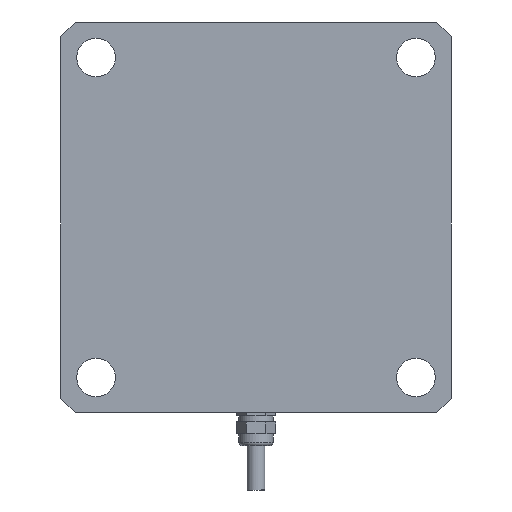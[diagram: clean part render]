
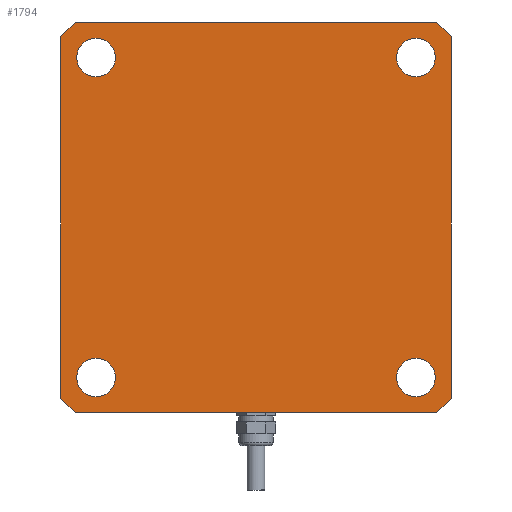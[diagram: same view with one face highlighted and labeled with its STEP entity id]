
A CAD part, front view. The second image highlights one B-rep face of the part: STEP entity #1794.
In plain terms, the highlighted planar face has unit normal (0, -1, 0).
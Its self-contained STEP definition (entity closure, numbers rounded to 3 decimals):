
#1 = FACE_BOUND ( 'NONE', #2020, .T. ) ;
#16 = PLANE ( 'NONE',  #1724 ) ;
#18 = DIRECTION ( 'NONE',  ( 0.707, 0., -0.707 ) ) ;
#34 = EDGE_CURVE ( 'NONE', #967, #1880, #2181, .T. ) ;
#38 = EDGE_CURVE ( 'NONE', #1899, #57, #860, .T. ) ;
#44 = CARTESIAN_POINT ( 'NONE',  ( 61., -56.85, 66. ) ) ;
#57 = VERTEX_POINT ( 'NONE', #451 ) ;
#68 = ORIENTED_EDGE ( 'NONE', *, *, #1747, .T. ) ;
#82 = ORIENTED_EDGE ( 'NONE', *, *, #615, .F. ) ;
#96 = ORIENTED_EDGE ( 'NONE', *, *, #1444, .T. ) ;
#99 = CARTESIAN_POINT ( 'NONE',  ( -66., -56.85, -66. ) ) ;
#120 = AXIS2_PLACEMENT_3D ( 'NONE', #2150, #962, #1763 ) ;
#123 = AXIS2_PLACEMENT_3D ( 'NONE', #2077, #1298, #1319 ) ;
#129 = CARTESIAN_POINT ( 'NONE',  ( 54., -56.85, -54. ) ) ;
#175 = CIRCLE ( 'NONE', #419, 6.5 ) ;
#186 = VERTEX_POINT ( 'NONE', #1867 ) ;
#194 = CARTESIAN_POINT ( 'NONE',  ( -54., -56.85, 60.5 ) ) ;
#205 = AXIS2_PLACEMENT_3D ( 'NONE', #1428, #879, #851 ) ;
#207 = DIRECTION ( 'NONE',  ( 0., 1., 0. ) ) ;
#227 = DIRECTION ( 'NONE',  ( 0., -1., 0. ) ) ;
#253 = CARTESIAN_POINT ( 'NONE',  ( 66., -56.85, 61. ) ) ;
#269 = CARTESIAN_POINT ( 'NONE',  ( 54., -56.85, -47.5 ) ) ;
#270 = VERTEX_POINT ( 'NONE', #1771 ) ;
#282 = AXIS2_PLACEMENT_3D ( 'NONE', #1489, #2079, #1107 ) ;
#319 = DIRECTION ( 'NONE',  ( 0., -1., 0. ) ) ;
#359 = DIRECTION ( 'NONE',  ( 0., 0., -1. ) ) ;
#369 = VECTOR ( 'NONE', #1809, 1000. ) ;
#419 = AXIS2_PLACEMENT_3D ( 'NONE', #129, #2286, #359 ) ;
#442 = CIRCLE ( 'NONE', #282, 6.5 ) ;
#449 = VERTEX_POINT ( 'NONE', #1236 ) ;
#451 = CARTESIAN_POINT ( 'NONE',  ( 54., -56.85, 47.5 ) ) ;
#452 = VECTOR ( 'NONE', #941, 1000. ) ;
#479 = VERTEX_POINT ( 'NONE', #253 ) ;
#515 = CARTESIAN_POINT ( 'NONE',  ( -54., -56.85, 54. ) ) ;
#543 = EDGE_CURVE ( 'NONE', #891, #449, #1646, .T. ) ;
#544 = AXIS2_PLACEMENT_3D ( 'NONE', #515, #1683, #1859 ) ;
#551 = EDGE_CURVE ( 'NONE', #1335, #270, #2040, .T. ) ;
#559 = LINE ( 'NONE', #2310, #2356 ) ;
#562 = ORIENTED_EDGE ( 'NONE', *, *, #1727, .F. ) ;
#604 = EDGE_CURVE ( 'NONE', #57, #1899, #1233, .T. ) ;
#609 = DIRECTION ( 'NONE',  ( -0.707, 0., 0.707 ) ) ;
#615 = EDGE_CURVE ( 'NONE', #1549, #1048, #654, .T. ) ;
#622 = FACE_BOUND ( 'NONE', #715, .T. ) ;
#624 = LINE ( 'NONE', #2366, #1799 ) ;
#634 = LINE ( 'NONE', #1033, #1356 ) ;
#642 = EDGE_CURVE ( 'NONE', #833, #1636, #175, .T. ) ;
#654 = CIRCLE ( 'NONE', #740, 6.5 ) ;
#714 = ORIENTED_EDGE ( 'NONE', *, *, #1215, .T. ) ;
#715 = EDGE_LOOP ( 'NONE', ( #1239, #1841 ) ) ;
#719 = CARTESIAN_POINT ( 'NONE',  ( -54., -56.85, 47.5 ) ) ;
#740 = AXIS2_PLACEMENT_3D ( 'NONE', #744, #319, #1147 ) ;
#744 = CARTESIAN_POINT ( 'NONE',  ( -54., -56.85, -54. ) ) ;
#750 = AXIS2_PLACEMENT_3D ( 'NONE', #2168, #227, #1246 ) ;
#830 = EDGE_CURVE ( 'NONE', #1636, #833, #1573, .T. ) ;
#833 = VERTEX_POINT ( 'NONE', #1780 ) ;
#836 = LINE ( 'NONE', #1622, #2306 ) ;
#851 = DIRECTION ( 'NONE',  ( 0., 0., -1. ) ) ;
#860 = CIRCLE ( 'NONE', #205, 6.5 ) ;
#879 = DIRECTION ( 'NONE',  ( 0., -1., 0. ) ) ;
#891 = VERTEX_POINT ( 'NONE', #2448 ) ;
#901 = CIRCLE ( 'NONE', #120, 6.5 ) ;
#930 = LINE ( 'NONE', #1177, #452 ) ;
#941 = DIRECTION ( 'NONE',  ( -0.707, 0., -0.707 ) ) ;
#944 = ORIENTED_EDGE ( 'NONE', *, *, #551, .T. ) ;
#955 = VERTEX_POINT ( 'NONE', #1156 ) ;
#962 = DIRECTION ( 'NONE',  ( 0., -1., 0. ) ) ;
#967 = VERTEX_POINT ( 'NONE', #194 ) ;
#999 = EDGE_CURVE ( 'NONE', #186, #891, #930, .T. ) ;
#1033 = CARTESIAN_POINT ( 'NONE',  ( -66., -56.85, -66. ) ) ;
#1048 = VERTEX_POINT ( 'NONE', #2314 ) ;
#1057 = CARTESIAN_POINT ( 'NONE',  ( 61., -56.85, -66. ) ) ;
#1107 = DIRECTION ( 'NONE',  ( 0., 0., -1. ) ) ;
#1128 = EDGE_CURVE ( 'NONE', #1506, #1335, #634, .T. ) ;
#1136 = CARTESIAN_POINT ( 'NONE',  ( -61., -56.85, -66. ) ) ;
#1137 = ORIENTED_EDGE ( 'NONE', *, *, #34, .F. ) ;
#1147 = DIRECTION ( 'NONE',  ( 0., 0., -1. ) ) ;
#1156 = CARTESIAN_POINT ( 'NONE',  ( 61., -56.85, 66. ) ) ;
#1177 = CARTESIAN_POINT ( 'NONE',  ( -66., -56.85, 61. ) ) ;
#1215 = EDGE_CURVE ( 'NONE', #270, #479, #836, .T. ) ;
#1233 = CIRCLE ( 'NONE', #123, 6.5 ) ;
#1236 = CARTESIAN_POINT ( 'NONE',  ( -66., -56.85, -61. ) ) ;
#1239 = ORIENTED_EDGE ( 'NONE', *, *, #830, .F. ) ;
#1246 = DIRECTION ( 'NONE',  ( 0., 0., -1. ) ) ;
#1298 = DIRECTION ( 'NONE',  ( 0., -1., 0. ) ) ;
#1319 = DIRECTION ( 'NONE',  ( 0., 0., -1. ) ) ;
#1335 = VERTEX_POINT ( 'NONE', #1057 ) ;
#1343 = EDGE_LOOP ( 'NONE', ( #96, #2117, #2296, #2182, #1922, #944, #714, #68 ) ) ;
#1356 = VECTOR ( 'NONE', #2164, 1000. ) ;
#1388 = FACE_BOUND ( 'NONE', #1578, .T. ) ;
#1428 = CARTESIAN_POINT ( 'NONE',  ( 54., -56.85, 54. ) ) ;
#1444 = EDGE_CURVE ( 'NONE', #955, #186, #559, .T. ) ;
#1489 = CARTESIAN_POINT ( 'NONE',  ( -54., -56.85, -54. ) ) ;
#1506 = VERTEX_POINT ( 'NONE', #1136 ) ;
#1549 = VERTEX_POINT ( 'NONE', #1618 ) ;
#1551 = VECTOR ( 'NONE', #609, 1000. ) ;
#1573 = CIRCLE ( 'NONE', #750, 6.5 ) ;
#1578 = EDGE_LOOP ( 'NONE', ( #82, #562 ) ) ;
#1618 = CARTESIAN_POINT ( 'NONE',  ( -54., -56.85, -47.5 ) ) ;
#1622 = CARTESIAN_POINT ( 'NONE',  ( 66., -56.85, -66. ) ) ;
#1636 = VERTEX_POINT ( 'NONE', #269 ) ;
#1646 = LINE ( 'NONE', #99, #1848 ) ;
#1683 = DIRECTION ( 'NONE',  ( 0., -1., 0. ) ) ;
#1724 = AXIS2_PLACEMENT_3D ( 'NONE', #1954, #207, #1979 ) ;
#1727 = EDGE_CURVE ( 'NONE', #1048, #1549, #442, .T. ) ;
#1747 = EDGE_CURVE ( 'NONE', #479, #955, #1788, .T. ) ;
#1763 = DIRECTION ( 'NONE',  ( 0., 0., -1. ) ) ;
#1771 = CARTESIAN_POINT ( 'NONE',  ( 66., -56.85, -61. ) ) ;
#1780 = CARTESIAN_POINT ( 'NONE',  ( 54., -56.85, -60.5 ) ) ;
#1788 = LINE ( 'NONE', #44, #1551 ) ;
#1794 = ADVANCED_FACE ( 'NONE', ( #1991, #1, #2398, #622, #1388 ), #16, .F. ) ;
#1799 = VECTOR ( 'NONE', #18, 1000. ) ;
#1809 = DIRECTION ( 'NONE',  ( 0.707, 0., 0.707 ) ) ;
#1841 = ORIENTED_EDGE ( 'NONE', *, *, #642, .F. ) ;
#1848 = VECTOR ( 'NONE', #2238, 1000. ) ;
#1857 = ORIENTED_EDGE ( 'NONE', *, *, #604, .F. ) ;
#1859 = DIRECTION ( 'NONE',  ( 0., 0., -1. ) ) ;
#1867 = CARTESIAN_POINT ( 'NONE',  ( -61., -56.85, 66. ) ) ;
#1880 = VERTEX_POINT ( 'NONE', #719 ) ;
#1899 = VERTEX_POINT ( 'NONE', #2294 ) ;
#1904 = DIRECTION ( 'NONE',  ( -1., 0., 0. ) ) ;
#1922 = ORIENTED_EDGE ( 'NONE', *, *, #1128, .T. ) ;
#1947 = ORIENTED_EDGE ( 'NONE', *, *, #38, .F. ) ;
#1954 = CARTESIAN_POINT ( 'NONE',  ( 0., -56.85, 0. ) ) ;
#1979 = DIRECTION ( 'NONE',  ( 1., 0., 0. ) ) ;
#1991 = FACE_OUTER_BOUND ( 'NONE', #1343, .T. ) ;
#2020 = EDGE_LOOP ( 'NONE', ( #1137, #2270 ) ) ;
#2034 = EDGE_CURVE ( 'NONE', #449, #1506, #624, .T. ) ;
#2040 = LINE ( 'NONE', #2395, #369 ) ;
#2077 = CARTESIAN_POINT ( 'NONE',  ( 54., -56.85, 54. ) ) ;
#2079 = DIRECTION ( 'NONE',  ( 0., -1., 0. ) ) ;
#2117 = ORIENTED_EDGE ( 'NONE', *, *, #999, .T. ) ;
#2150 = CARTESIAN_POINT ( 'NONE',  ( -54., -56.85, 54. ) ) ;
#2164 = DIRECTION ( 'NONE',  ( 1., 0., 0. ) ) ;
#2168 = CARTESIAN_POINT ( 'NONE',  ( 54., -56.85, -54. ) ) ;
#2181 = CIRCLE ( 'NONE', #544, 6.5 ) ;
#2182 = ORIENTED_EDGE ( 'NONE', *, *, #2034, .T. ) ;
#2238 = DIRECTION ( 'NONE',  ( 0., 0., -1. ) ) ;
#2270 = ORIENTED_EDGE ( 'NONE', *, *, #2330, .F. ) ;
#2286 = DIRECTION ( 'NONE',  ( 0., -1., 0. ) ) ;
#2294 = CARTESIAN_POINT ( 'NONE',  ( 54., -56.85, 60.5 ) ) ;
#2296 = ORIENTED_EDGE ( 'NONE', *, *, #543, .T. ) ;
#2306 = VECTOR ( 'NONE', #2399, 1000. ) ;
#2310 = CARTESIAN_POINT ( 'NONE',  ( -66., -56.85, 66. ) ) ;
#2314 = CARTESIAN_POINT ( 'NONE',  ( -54., -56.85, -60.5 ) ) ;
#2330 = EDGE_CURVE ( 'NONE', #1880, #967, #901, .T. ) ;
#2356 = VECTOR ( 'NONE', #1904, 1000. ) ;
#2366 = CARTESIAN_POINT ( 'NONE',  ( -61., -56.85, -66. ) ) ;
#2395 = CARTESIAN_POINT ( 'NONE',  ( 66., -56.85, -61. ) ) ;
#2398 = FACE_BOUND ( 'NONE', #2524, .T. ) ;
#2399 = DIRECTION ( 'NONE',  ( 0., 0., 1. ) ) ;
#2448 = CARTESIAN_POINT ( 'NONE',  ( -66., -56.85, 61. ) ) ;
#2524 = EDGE_LOOP ( 'NONE', ( #1947, #1857 ) ) ;
